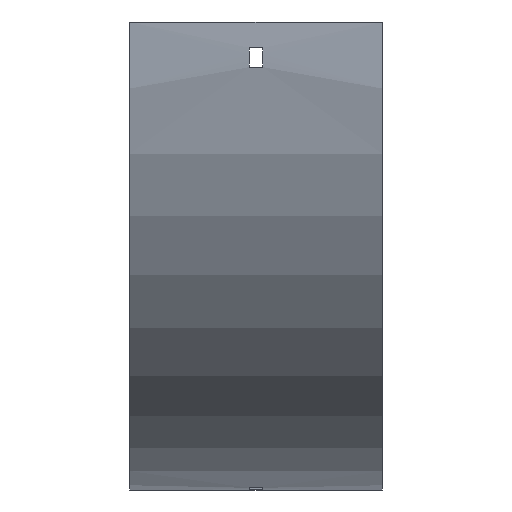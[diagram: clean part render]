
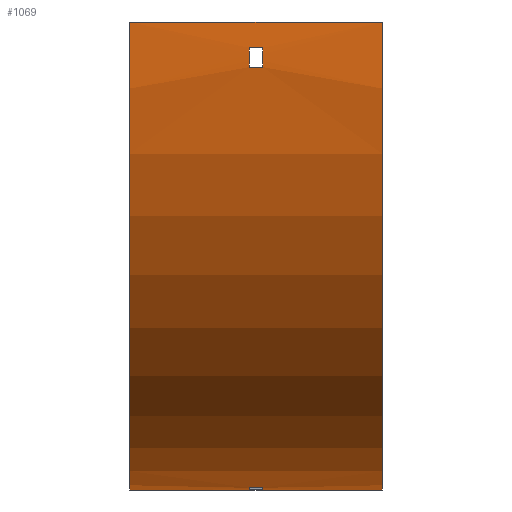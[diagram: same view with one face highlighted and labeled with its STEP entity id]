
A CAD part, front view. The second image highlights one B-rep face of the part: STEP entity #1069.
In plain terms, the highlighted cylindrical face has radius 217.5 mm (diameter 435 mm), a partial arc.
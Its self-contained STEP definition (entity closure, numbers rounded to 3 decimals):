
#6 = EDGE_CURVE ( 'NONE', #1289, #828, #712, .T. ) ;
#11 = DIRECTION ( 'NONE',  ( 1., 0., 0. ) ) ;
#19 = AXIS2_PLACEMENT_3D ( 'NONE', #1062, #11, #802 ) ;
#23 = CARTESIAN_POINT ( 'NONE',  ( 3.25, 79., -216.484 ) ) ;
#41 = DIRECTION ( 'NONE',  ( 0., 0., 1. ) ) ;
#48 = LINE ( 'NONE', #705, #754 ) ;
#73 = CARTESIAN_POINT ( 'NONE',  ( 3.25, 88., -217.169 ) ) ;
#99 = CARTESIAN_POINT ( 'NONE',  ( -3.25, -116.484, -21. ) ) ;
#135 = CIRCLE ( 'NONE', #515, 217.5 ) ;
#159 = LINE ( 'NONE', #645, #1251 ) ;
#160 = ORIENTED_EDGE ( 'NONE', *, *, #537, .F. ) ;
#171 = ORIENTED_EDGE ( 'NONE', *, *, #1658, .F. ) ;
#183 = FACE_BOUND ( 'NONE', #1577, .T. ) ;
#203 = LINE ( 'NONE', #296, #890 ) ;
#211 = ORIENTED_EDGE ( 'NONE', *, *, #786, .F. ) ;
#226 = DIRECTION ( 'NONE',  ( -1., 0., 0. ) ) ;
#249 = DIRECTION ( 'NONE',  ( -1., 0., 0. ) ) ;
#257 = CARTESIAN_POINT ( 'NONE',  ( 3.25, 100., 0. ) ) ;
#270 = CARTESIAN_POINT ( 'NONE',  ( 58.75, 88., -217.169 ) ) ;
#282 = CARTESIAN_POINT ( 'NONE',  ( 58.75, 100., -217.5 ) ) ;
#290 = VECTOR ( 'NONE', #909, 1000. ) ;
#296 = CARTESIAN_POINT ( 'NONE',  ( 58.75, -117.169, -12. ) ) ;
#297 = CARTESIAN_POINT ( 'NONE',  ( -58.75, -117.5, 0. ) ) ;
#317 = VERTEX_POINT ( 'NONE', #297 ) ;
#342 = CIRCLE ( 'NONE', #1324, 217.5 ) ;
#343 = EDGE_CURVE ( 'NONE', #1383, #517, #135, .T. ) ;
#350 = CARTESIAN_POINT ( 'NONE',  ( -3.25, 88., -217.169 ) ) ;
#356 = DIRECTION ( 'NONE',  ( 0., 0., -1. ) ) ;
#411 = VERTEX_POINT ( 'NONE', #350 ) ;
#412 = DIRECTION ( 'NONE',  ( 0., 0., 1. ) ) ;
#425 = FACE_OUTER_BOUND ( 'NONE', #1408, .T. ) ;
#495 = CARTESIAN_POINT ( 'NONE',  ( 3.25, -117.169, -12. ) ) ;
#509 = ORIENTED_EDGE ( 'NONE', *, *, #1648, .T. ) ;
#510 = CIRCLE ( 'NONE', #775, 217.5 ) ;
#515 = AXIS2_PLACEMENT_3D ( 'NONE', #691, #1211, #41 ) ;
#517 = VERTEX_POINT ( 'NONE', #23 ) ;
#526 = DIRECTION ( 'NONE',  ( -1., 0., 0. ) ) ;
#537 = EDGE_CURVE ( 'NONE', #411, #1383, #1433, .T. ) ;
#542 = EDGE_CURVE ( 'NONE', #1604, #411, #1255, .T. ) ;
#565 = VECTOR ( 'NONE', #1450, 1000. ) ;
#569 = CARTESIAN_POINT ( 'NONE',  ( 58.75, 100., 0. ) ) ;
#586 = CARTESIAN_POINT ( 'NONE',  ( 58.75, -116.484, -21. ) ) ;
#629 = ORIENTED_EDGE ( 'NONE', *, *, #343, .F. ) ;
#633 = VERTEX_POINT ( 'NONE', #1193 ) ;
#645 = CARTESIAN_POINT ( 'NONE',  ( 58.75, 100., -217.5 ) ) ;
#661 = DIRECTION ( 'NONE',  ( 1., 0., 0. ) ) ;
#664 = ORIENTED_EDGE ( 'NONE', *, *, #1351, .T. ) ;
#691 = CARTESIAN_POINT ( 'NONE',  ( 3.25, 100., 0. ) ) ;
#698 = ORIENTED_EDGE ( 'NONE', *, *, #542, .F. ) ;
#705 = CARTESIAN_POINT ( 'NONE',  ( 58.75, 79., -216.484 ) ) ;
#712 = LINE ( 'NONE', #586, #1343 ) ;
#717 = DIRECTION ( 'NONE',  ( 1., 0., 0. ) ) ;
#721 = ORIENTED_EDGE ( 'NONE', *, *, #6, .T. ) ;
#733 = CARTESIAN_POINT ( 'NONE',  ( 3.25, -116.484, -21. ) ) ;
#754 = VECTOR ( 'NONE', #856, 1000. ) ;
#775 = AXIS2_PLACEMENT_3D ( 'NONE', #257, #661, #1329 ) ;
#786 = EDGE_CURVE ( 'NONE', #1625, #1622, #1029, .T. ) ;
#802 = DIRECTION ( 'NONE',  ( 0., 1., 0. ) ) ;
#817 = DIRECTION ( 'NONE',  ( -1., 0., 0. ) ) ;
#828 = VERTEX_POINT ( 'NONE', #99 ) ;
#853 = EDGE_CURVE ( 'NONE', #828, #633, #1166, .T. ) ;
#856 = DIRECTION ( 'NONE',  ( -1., 0., 0. ) ) ;
#875 = CARTESIAN_POINT ( 'NONE',  ( -58.75, 100., -217.5 ) ) ;
#890 = VECTOR ( 'NONE', #1481, 1000. ) ;
#899 = EDGE_CURVE ( 'NONE', #1625, #317, #1578, .T. ) ;
#909 = DIRECTION ( 'NONE',  ( 1., 0., 0. ) ) ;
#922 = CARTESIAN_POINT ( 'NONE',  ( 58.75, -117.5, 0. ) ) ;
#980 = EDGE_LOOP ( 'NONE', ( #698, #1594, #629, #160 ) ) ;
#983 = DIRECTION ( 'NONE',  ( 0., 0., -1. ) ) ;
#989 = ORIENTED_EDGE ( 'NONE', *, *, #899, .T. ) ;
#990 = CARTESIAN_POINT ( 'NONE',  ( -3.25, 100., 0. ) ) ;
#1007 = CARTESIAN_POINT ( 'NONE',  ( 58.75, 100., 0. ) ) ;
#1029 = CIRCLE ( 'NONE', #1110, 217.5 ) ;
#1060 = CARTESIAN_POINT ( 'NONE',  ( -3.25, 79., -216.484 ) ) ;
#1062 = CARTESIAN_POINT ( 'NONE',  ( -3.25, 100., 0. ) ) ;
#1069 = ADVANCED_FACE ( 'NONE', ( #425, #183, #1611 ), #1620, .T. ) ;
#1110 = AXIS2_PLACEMENT_3D ( 'NONE', #1007, #1426, #356 ) ;
#1166 = CIRCLE ( 'NONE', #1638, 217.5 ) ;
#1173 = EDGE_CURVE ( 'NONE', #517, #1604, #48, .T. ) ;
#1193 = CARTESIAN_POINT ( 'NONE',  ( -3.25, -117.169, -12. ) ) ;
#1197 = VERTEX_POINT ( 'NONE', #875 ) ;
#1211 = DIRECTION ( 'NONE',  ( -1., 0., 0. ) ) ;
#1251 = VECTOR ( 'NONE', #526, 1000. ) ;
#1255 = CIRCLE ( 'NONE', #19, 217.5 ) ;
#1289 = VERTEX_POINT ( 'NONE', #733 ) ;
#1290 = VERTEX_POINT ( 'NONE', #495 ) ;
#1311 = ORIENTED_EDGE ( 'NONE', *, *, #1388, .T. ) ;
#1324 = AXIS2_PLACEMENT_3D ( 'NONE', #1385, #717, #983 ) ;
#1329 = DIRECTION ( 'NONE',  ( 0., 0., -1. ) ) ;
#1343 = VECTOR ( 'NONE', #226, 1000. ) ;
#1351 = EDGE_CURVE ( 'NONE', #633, #1290, #203, .T. ) ;
#1370 = ORIENTED_EDGE ( 'NONE', *, *, #853, .T. ) ;
#1383 = VERTEX_POINT ( 'NONE', #73 ) ;
#1385 = CARTESIAN_POINT ( 'NONE',  ( -58.75, 100., 0. ) ) ;
#1388 = EDGE_CURVE ( 'NONE', #317, #1197, #342, .T. ) ;
#1408 = EDGE_LOOP ( 'NONE', ( #1311, #171, #211, #989 ) ) ;
#1426 = DIRECTION ( 'NONE',  ( 1., 0., 0. ) ) ;
#1433 = LINE ( 'NONE', #270, #290 ) ;
#1450 = DIRECTION ( 'NONE',  ( -1., 0., 0. ) ) ;
#1463 = AXIS2_PLACEMENT_3D ( 'NONE', #569, #817, #412 ) ;
#1481 = DIRECTION ( 'NONE',  ( 1., 0., 0. ) ) ;
#1538 = DIRECTION ( 'NONE',  ( 0., 0., 1. ) ) ;
#1577 = EDGE_LOOP ( 'NONE', ( #721, #1370, #664, #509 ) ) ;
#1578 = LINE ( 'NONE', #922, #565 ) ;
#1580 = CARTESIAN_POINT ( 'NONE',  ( 58.75, -117.5, 0. ) ) ;
#1594 = ORIENTED_EDGE ( 'NONE', *, *, #1173, .F. ) ;
#1604 = VERTEX_POINT ( 'NONE', #1060 ) ;
#1611 = FACE_BOUND ( 'NONE', #980, .T. ) ;
#1620 = CYLINDRICAL_SURFACE ( 'NONE', #1463, 217.5 ) ;
#1622 = VERTEX_POINT ( 'NONE', #282 ) ;
#1625 = VERTEX_POINT ( 'NONE', #1580 ) ;
#1638 = AXIS2_PLACEMENT_3D ( 'NONE', #990, #249, #1538 ) ;
#1648 = EDGE_CURVE ( 'NONE', #1290, #1289, #510, .T. ) ;
#1658 = EDGE_CURVE ( 'NONE', #1622, #1197, #159, .T. ) ;
